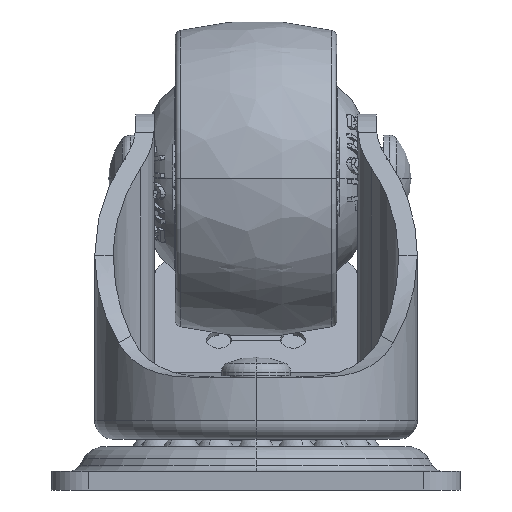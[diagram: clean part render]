
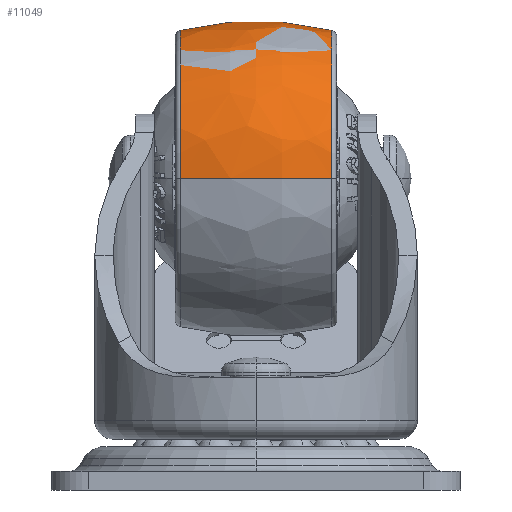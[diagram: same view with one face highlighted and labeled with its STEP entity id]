
A CAD part, left-side view. The second image highlights one B-rep face of the part: STEP entity #11049.
In plain terms, the highlighted free-form (B-spline) face has degree [3, 3] with [7, 4] control points.
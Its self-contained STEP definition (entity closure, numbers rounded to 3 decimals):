
#10878=CARTESIAN_POINT('',(-12.3,0.,0.));
#10879=DIRECTION('',(0.,1.,0.));
#10880=DIRECTION('',(0.97,0.,0.245));
#10881=AXIS2_PLACEMENT_3D('',#10878,#10879,#10880);
#10883=CARTESIAN_POINT('',(12.3,0.,0.));
#10884=DIRECTION('',(0.,-1.,0.));
#10885=DIRECTION('',(-0.97,0.,0.245));
#10886=AXIS2_PLACEMENT_3D('',#10883,#10884,#10885);
#10893=CARTESIAN_POINT('',(0.,0.,6.122));
#10894=DIRECTION('',(0.,0.,1.));
#10895=DIRECTION('',(1.,0.,0.));
#10896=AXIS2_PLACEMENT_3D('',#10893,#10894,#10895);
#10898=CARTESIAN_POINT('',(0.,0.,-6.122));
#10899=DIRECTION('',(0.,0.,1.));
#10900=DIRECTION('',(1.,0.,0.));
#10901=AXIS2_PLACEMENT_3D('',#10898,#10899,#10900);
#10929=CARTESIAN_POINT('',(11.939,0.,6.122));
#10931=VERTEX_POINT('',#10929);
#10932=CARTESIAN_POINT('',(11.939,0.,-6.122));
#10933=VERTEX_POINT('',#10932);
#10937=CARTESIAN_POINT('',(-11.939,0.,6.122));
#10939=VERTEX_POINT('',#10937);
#10940=CARTESIAN_POINT('',(-11.939,0.,-6.122));
#10941=VERTEX_POINT('',#10940);
#11013=CARTESIAN_POINT('',(11.854,-0.746,
-6.362));
#11014=CARTESIAN_POINT('',(12.955,-0.815,
-2.168));
#11015=CARTESIAN_POINT('',(12.955,-0.815,
2.168));
#11016=CARTESIAN_POINT('',(11.854,-0.746,
6.362));
#11017=CARTESIAN_POINT('',(12.312,6.549,
-6.362));
#11018=CARTESIAN_POINT('',(13.456,7.157,
-2.168));
#11019=CARTESIAN_POINT('',(13.456,7.157,2.168));
#11020=CARTESIAN_POINT('',(12.312,6.549,6.362));
#11021=CARTESIAN_POINT('',(7.309,11.877,
-6.362));
#11022=CARTESIAN_POINT('',(7.988,12.981,
-2.168));
#11023=CARTESIAN_POINT('',(7.988,12.981,2.168));
#11024=CARTESIAN_POINT('',(7.309,11.877,6.362));
#11025=CARTESIAN_POINT('',(0.,11.877,-6.362));
#11026=CARTESIAN_POINT('',(0.,12.981,-2.168));
#11027=CARTESIAN_POINT('',(0.,12.981,2.168));
#11028=CARTESIAN_POINT('',(0.,11.877,6.362));
#11029=CARTESIAN_POINT('',(-7.309,11.877,
-6.362));
#11030=CARTESIAN_POINT('',(-7.988,12.981,
-2.168));
#11031=CARTESIAN_POINT('',(-7.988,12.981,
2.168));
#11032=CARTESIAN_POINT('',(-7.309,11.877,
6.362));
#11033=CARTESIAN_POINT('',(-12.312,6.549,
-6.362));
#11034=CARTESIAN_POINT('',(-13.456,7.157,
-2.168));
#11035=CARTESIAN_POINT('',(-13.456,7.157,
2.168));
#11036=CARTESIAN_POINT('',(-12.312,6.549,
6.362));
#11037=CARTESIAN_POINT('',(-11.854,-0.746,
-6.362));
#11038=CARTESIAN_POINT('',(-12.955,-0.815,
-2.168));
#11039=CARTESIAN_POINT('',(-12.955,-0.815,
2.168));
#11040=CARTESIAN_POINT('',(-11.854,-0.746,
6.362));
#11041=(BOUNDED_SURFACE()B_SPLINE_SURFACE(3,3,((#11013,#11014,#11015,#11016),(
#11017,#11018,#11019,#11020),(#11021,#11022,#11023,#11024),(#11025,#11026,
#11027,#11028),(#11029,#11030,#11031,#11032),(#11033,#11034,#11035,#11036),(
#11037,#11038,#11039,#11040)),.UNSPECIFIED.,.F.,.F.,.F.)B_SPLINE_SURFACE_WITH_KNOTS((4,3,4),(4,4),(0.,1.,2.),(0.,1.),.UNSPECIFIED.)GEOMETRIC_REPRESENTATION_ITEM()RATIONAL_B_SPLINE_SURFACE(((1.207,1.181,
1.181,1.207),(0.953,0.932,
0.932,0.953),(0.953,0.932,
0.932,0.953),(1.207,1.181,
1.181,1.207),(0.953,0.932,
0.932,0.953),(0.953,0.932,
0.932,0.953),(1.207,1.181,
1.181,1.207)))REPRESENTATION_ITEM('')SURFACE());
#11042=ORIENTED_EDGE('',*,*,#11003,.F.);
#11043=ORIENTED_EDGE('',*,*,#10955,.T.);
#11044=ORIENTED_EDGE('',*,*,#11007,.T.);
#11046=ORIENTED_EDGE('',*,*,#11045,.F.);
#11047=EDGE_LOOP('',(#11042,#11043,#11044,#11046));
#11048=FACE_OUTER_BOUND('',#11047,.F.);
#10882=CIRCLE('',#10881,25.);
#10887=CIRCLE('',#10886,25.);
#10897=CIRCLE('',#10896,11.939);
#10902=CIRCLE('',#10901,11.939);
#10955=EDGE_CURVE('',#10931,#10939,#10897,.T.);
#11003=EDGE_CURVE('',#10931,#10933,#10882,.T.);
#11007=EDGE_CURVE('',#10939,#10941,#10887,.T.);
#11045=EDGE_CURVE('',#10933,#10941,#10902,.T.);
#11049=ADVANCED_FACE('',(#11048),#11041,.T.);
